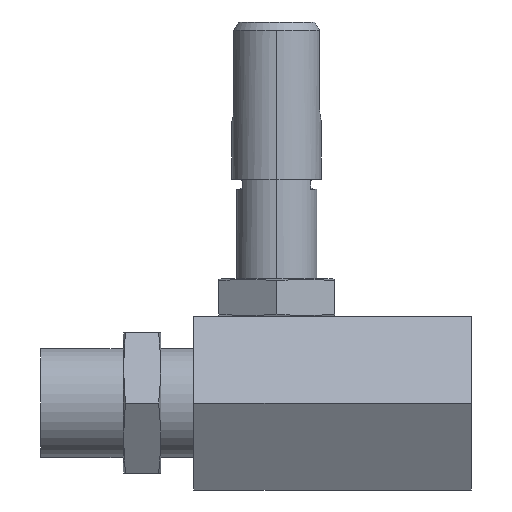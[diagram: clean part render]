
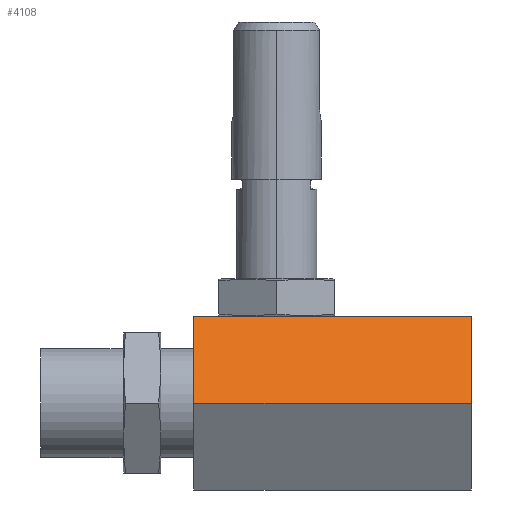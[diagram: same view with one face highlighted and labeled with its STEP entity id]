
A CAD part, left-side view. The second image highlights one B-rep face of the part: STEP entity #4108.
In plain terms, the highlighted planar face has unit normal (-0.866, 0, 0.5).
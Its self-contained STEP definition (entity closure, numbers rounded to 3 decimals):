
#42 = VERTEX_POINT ( 'NONE', #758 ) ;
#43 = VERTEX_POINT ( 'NONE', #757 ) ;
#47 = VERTEX_POINT ( 'NONE', #753 ) ;
#48 = VERTEX_POINT ( 'NONE', #752 ) ;
#327 = DIRECTION ( 'NONE',  ( 0.5, 0., 0.866 ) ) ;
#334 = DIRECTION ( 'NONE',  ( 0., -1., 0. ) ) ;
#335 = CARTESIAN_POINT ( 'NONE',  ( -6.062, 33.5, 10.5 ) ) ;
#336 = CARTESIAN_POINT ( 'NONE',  ( -12.124, 0., 0. ) ) ;
#345 = DIRECTION ( 'NONE',  ( 0., -1., 0. ) ) ;
#346 = CARTESIAN_POINT ( 'NONE',  ( -12.124, 33.5, 0. ) ) ;
#392 = DIRECTION ( 'NONE',  ( 0.5, 0., 0.866 ) ) ;
#393 = CARTESIAN_POINT ( 'NONE',  ( -12.124, 33.5, 0. ) ) ;
#752 = CARTESIAN_POINT ( 'NONE',  ( -6.062, 0., 10.5 ) ) ;
#753 = CARTESIAN_POINT ( 'NONE',  ( -12.124, 0., 0. ) ) ;
#757 = CARTESIAN_POINT ( 'NONE',  ( -6.062, 33.5, 10.5 ) ) ;
#758 = CARTESIAN_POINT ( 'NONE',  ( -12.124, 33.5, 0. ) ) ;
#889 = EDGE_LOOP ( 'NONE', ( #1980, #1981, #1982, #1983 ) ) ;
#1323 = FACE_OUTER_BOUND ( 'NONE', #889, .T. ) ;
#1517 = AXIS2_PLACEMENT_3D ( 'NONE', #3812, #3822, #3823 ) ;
#1980 = ORIENTED_EDGE ( 'NONE', *, *, #2540, .T. ) ;
#1981 = ORIENTED_EDGE ( 'NONE', *, *, #2537, .F. ) ;
#1982 = ORIENTED_EDGE ( 'NONE', *, *, #2514, .F. ) ;
#1983 = ORIENTED_EDGE ( 'NONE', *, *, #2532, .T. ) ;
#2373 = VECTOR ( 'NONE', #392, 1000. ) ;
#2374 = LINE ( 'NONE', #393, #2373 ) ;
#2394 = LINE ( 'NONE', #346, #2400 ) ;
#2400 = VECTOR ( 'NONE', #345, 1000. ) ;
#2411 = VECTOR ( 'NONE', #327, 1000. ) ;
#2412 = LINE ( 'NONE', #335, #2413 ) ;
#2413 = VECTOR ( 'NONE', #334, 1000. ) ;
#2416 = LINE ( 'NONE', #336, #2411 ) ;
#2514 = EDGE_CURVE ( 'NONE', #42, #43, #2374, .T. ) ;
#2532 = EDGE_CURVE ( 'NONE', #42, #47, #2394, .T. ) ;
#2537 = EDGE_CURVE ( 'NONE', #43, #48, #2412, .T. ) ;
#2540 = EDGE_CURVE ( 'NONE', #47, #48, #2416, .T. ) ;
#3812 = CARTESIAN_POINT ( 'NONE',  ( -12.124, 33.5, 0. ) ) ;
#3817 = PLANE ( 'NONE',  #1517 ) ;
#3822 = DIRECTION ( 'NONE',  ( 0.866, 0., -0.5 ) ) ;
#3823 = DIRECTION ( 'NONE',  ( -0.5, 0., -0.866 ) ) ;
#4108 = ADVANCED_FACE ( 'NONE', ( #1323 ), #3817, .F. ) ;
